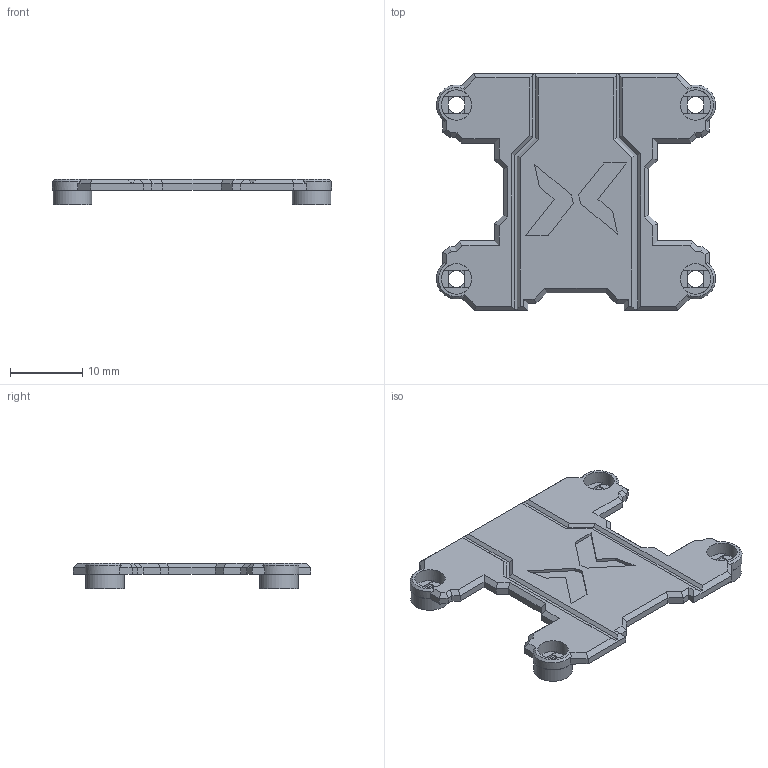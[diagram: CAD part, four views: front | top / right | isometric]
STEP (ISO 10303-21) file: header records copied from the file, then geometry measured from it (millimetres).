
FILE_DESCRIPTION(('Open CASCADE Model'),'2;1');
FILE_NAME('Open CASCADE Shape Model','2026-10-13T01:48:58',('Author'),( 'Open CASCADE'),'Open CASCADE STEP processor 7.9','Open CASCADE 7.9' ,'Unknown');
FILE_SCHEMA(('AUTOMOTIVE_DESIGN { 1 0 10303 214 1 1 1 1 }'));
Length unit declared in the file: millimetre
Products named in the file (1): Open CASCADE STEP translator 7.9 3
Bounding box: 38.5 x 32.7 x 3.5 mm (x, y, z)
Volume: 1386.8 mm3; surface area: 2369.2 mm2
Topology: 1 solids, 1 shells, 194 faces, 498 edges, 312 vertices
Faces by surface type: plane 118, bspline 56, cylinder 16, cone 4
Full cylindrical faces by diameter (mm): 2.3 x4, 4.2 x4, 5.3 x4
Entity records: 12251 total; most frequent: CARTESIAN_POINT 2806, DIRECTION 1527, LINE 1075, VECTOR 1075, ORIENTED_EDGE 996, PCURVE 996, DEFINITIONAL_REPRESENTATION 996, EDGE_CURVE 498
